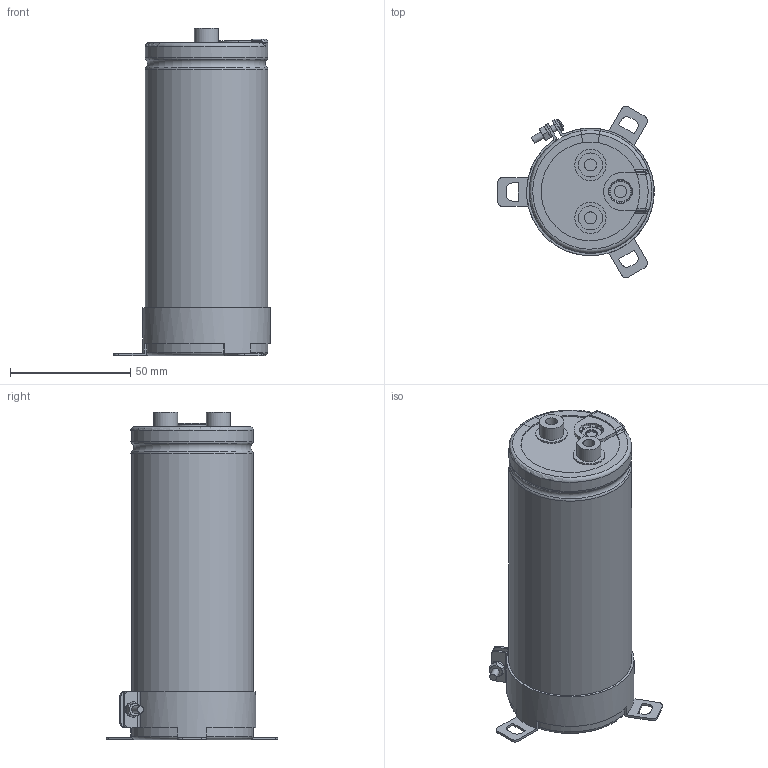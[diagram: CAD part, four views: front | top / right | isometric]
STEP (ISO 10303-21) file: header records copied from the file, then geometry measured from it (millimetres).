
FILE_DESCRIPTION(/* description */ (''),/* implementation_level */ '2;1');
FILE_NAME(/* name */ '51x130_Screw.stp',/* time_stamp */ '2017-09-15T13:58:53+09:00',/* author */ (''),/* organization */ (''),/* preprocessor_version */ 'ST-DEVELOPER v16',/* originating_system */ 'SIEMENS PLM Software NX 11.0',/* authorisation */ '');
FILE_SCHEMA (('AUTOMOTIVE_DESIGN { 1 0 10303 214 3 1 1 1 }'));
Length unit declared in the file: millimetre
Products named in the file (1): 51x130_Screw
Bounding box: 65 x 71.22 x 136 mm (x, y, z)
Volume: 267552.2 mm3; surface area: 76599.8 mm2
Topology: 9 solids, 9 shells, 298 faces, 744 edges, 471 vertices
Faces by surface type: plane 118, cylinder 78, torus 54, cone 31, bspline 12, sphere 5
Full cylindrical faces by diameter (mm): 3 x5, 5 x6, 5.5 x2, 10 x4, 13 x2, 49.8 x2
Entity records: 10562 total; most frequent: CARTESIAN_POINT 3129, DIRECTION 1450, ORIENTED_EDGE 1410, EDGE_CURVE 705, AXIS2_PLACEMENT_3D 606, VERTEX_POINT 464, EDGE_LOOP 353, CIRCLE 319
